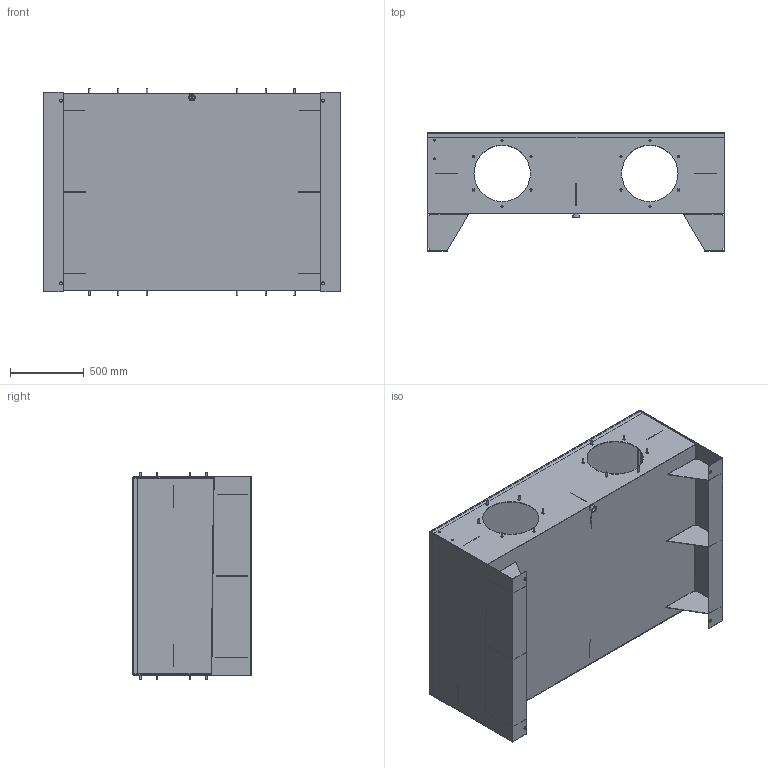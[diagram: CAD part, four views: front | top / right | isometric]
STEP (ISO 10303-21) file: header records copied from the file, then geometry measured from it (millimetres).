
FILE_DESCRIPTION (( 'STEP AP203' ), '1' );
FILE_NAME ('RESERVOIR R6-009 MONOBLOC.STEP', '2015-06-18T09:58:43', ( 'rodrigue' ), ( 'Hewlett-Packard Company' ), 'SwSTEP 2.0', 'SolidWorks 2015', '' );
FILE_SCHEMA (( 'CONFIG_CONTROL_DESIGN' ));
Length unit declared in the file: millimetre
Products named in the file (1): RESERVOIR R6-009 MONOBLOC
Bounding box: 2014 x 800 x 1397 mm (x, y, z)
Volume: 57279963 mm3; surface area: 20339502.4 mm2
Topology: 1 solids, 1 shells, 461 faces, 1123 edges, 762 vertices
Faces by surface type: plane 366, cylinder 95
Full cylindrical faces by diameter (mm): 10 x24, 11 x24, 13 x24, 19 x4, 30.3 x1, 40 x1, 45 x1, 382 x4
Entity records: 12717 total; most frequent: CARTESIAN_POINT 2164, DIRECTION 2094, ORIENTED_EDGE 1968, EDGE_CURVE 984, VECTOR 794, LINE 794, VERTEX_POINT 706, EDGE_LOOP 686
